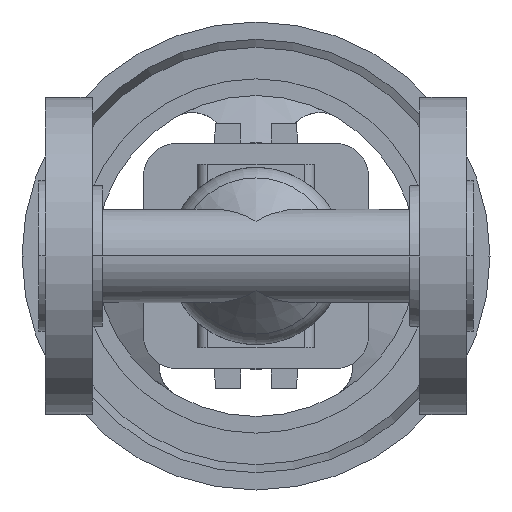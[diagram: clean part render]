
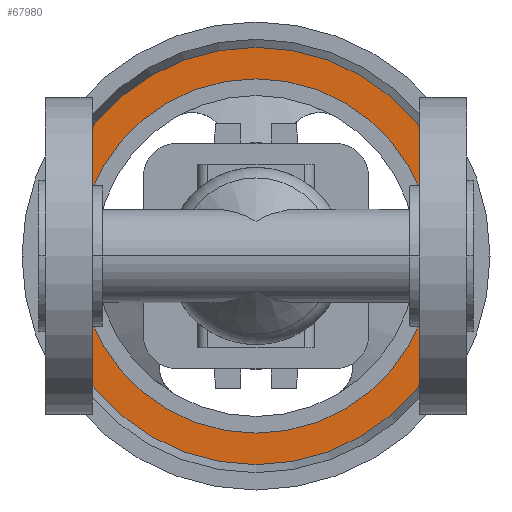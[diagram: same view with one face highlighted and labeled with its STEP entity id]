
A CAD part, front view. The second image highlights one B-rep face of the part: STEP entity #67980.
In plain terms, the highlighted planar face has unit normal (0, -1, 0).
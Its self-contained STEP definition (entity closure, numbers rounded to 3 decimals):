
#67430=CARTESIAN_POINT('',(127.412,246.5,0.)
);
#67440=VERTEX_POINT('',#67430);
#67520=CARTESIAN_POINT('',(2.588,246.5,0.));
#67530=VERTEX_POINT('',#67520);
#67560=CARTESIAN_POINT('',(65.,246.5,0.));
#67570=DIRECTION('',(0.,1.,0.));
#67580=DIRECTION('',(-1.,0.,0.));
#67590=AXIS2_PLACEMENT_3D('',#67560,#67570,#67580);
#67600=CIRCLE('',#67590,62.412);
#67610=EDGE_CURVE('',#67440,#67530,#67600,.T.);
#67730=CARTESIAN_POINT('',(7.294,246.5,0.))
;
#67740=DIRECTION('',(0.,-1.,0.));
#67750=DIRECTION('',(1.,0.,0.));
#67760=AXIS2_PLACEMENT_3D('',#67730,#67740,#67750);
#67770=PLANE('',#67760);
#67780=EDGE_CURVE('',#67530,#67440,#67600,.T.);
#67790=ORIENTED_EDGE('',*,*,#67780,.F.);
#67800=ORIENTED_EDGE('',*,*,#67610,.F.);
#67810=EDGE_LOOP('',(#67800,#67790));
#67820=FACE_OUTER_BOUND('',#67810,.T.);
#67830=CARTESIAN_POINT('',(65.,246.5,0.));
#67840=DIRECTION('',(0.,1.,0.));
#67850=DIRECTION('',(-1.,0.,0.));
#67860=AXIS2_PLACEMENT_3D('',#67830,#67840,#67850);
#67870=CIRCLE('',#67860,53.);
#67880=CARTESIAN_POINT('',(118.,246.5,0.));
#67890=VERTEX_POINT('',#67880);
#67900=CARTESIAN_POINT('',(12.,246.5,0.));
#67910=VERTEX_POINT('',#67900);
#67920=EDGE_CURVE('',#67890,#67910,#67870,.T.);
#67930=ORIENTED_EDGE('',*,*,#67920,.T.);
#67940=EDGE_CURVE('',#67910,#67890,#67870,.T.);
#67950=ORIENTED_EDGE('',*,*,#67940,.T.);
#67960=EDGE_LOOP('',(#67950,#67930));
#67970=FACE_BOUND('',#67960,.T.);
#67980=ADVANCED_FACE('',(#67820,#67970),#67770,.T.);
